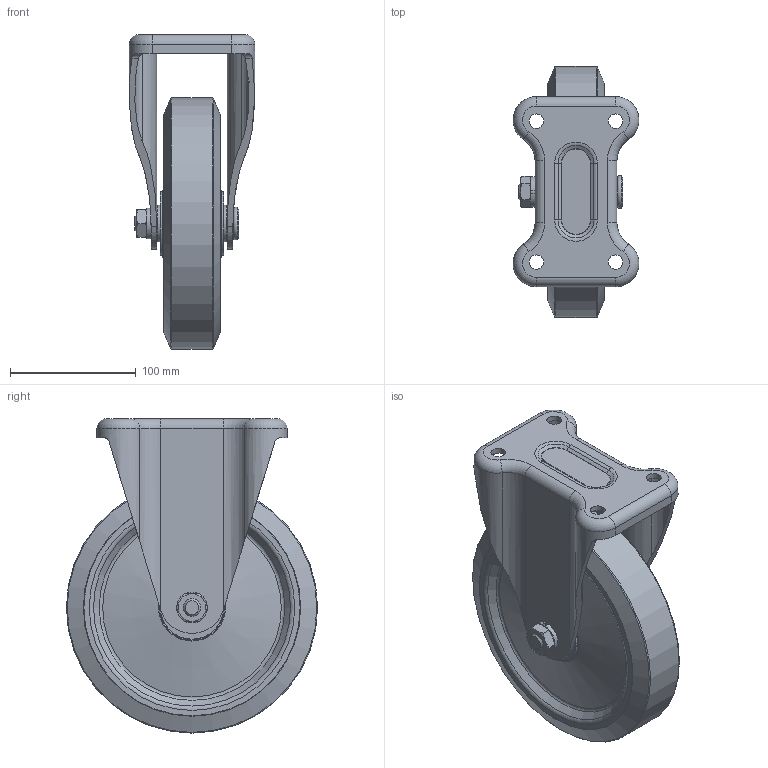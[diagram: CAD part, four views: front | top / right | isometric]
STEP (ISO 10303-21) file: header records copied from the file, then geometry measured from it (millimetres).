
FILE_DESCRIPTION((''),'2;1');
FILE_NAME('\\Cad-srv01-2\図面\900 図面交換受渡し場所\■■カタログ作成中（消さないでください)■■\1203　APPIT　3D\03購買先データ\シシク\解凍データ\UWK-200\UWK-200.stp','2013-07-19T17:24:36',('Administrator'),(''),'Autodesk Inventor 11','Autodesk Inventor 11','');
FILE_SCHEMA(('AUTOMOTIVE_DESIGN { 1 0 10303 214 1 1 1 1 }'));
Length unit declared in the file: millimetre
Products named in the file (3): UWK-200; 1; 2
Assembly tree (2 placements, depth 2):
  UWK-200
    1
    2
Bounding box: 100 x 199.62 x 249.81 mm (x, y, z)
Volume: 752921.1 mm3; surface area: 320701.3 mm2
Topology: 2 solids, 2 shells, 234 faces, 527 edges, 312 vertices
Faces by surface type: cylinder 72, torus 62, plane 61, cone 39
Full cylindrical faces by diameter (mm): 11.5 x4, 14 x1, 14.3 x1, 20 x1, 20.083 x2, 23.583 x2, 29.083 x2, 47.083 x2, 50.583 x2, 52.233 x2, 167.383 x2, 172.583 x5, 177.783 x2, 199.617 x1
Entity records: 6487 total; most frequent: CARTESIAN_POINT 1421, DIRECTION 1144, ORIENTED_EDGE 868, AXIS2_PLACEMENT_3D 508, EDGE_CURVE 437, EDGE_LOOP 352, VERTEX_POINT 304, CIRCLE 253
